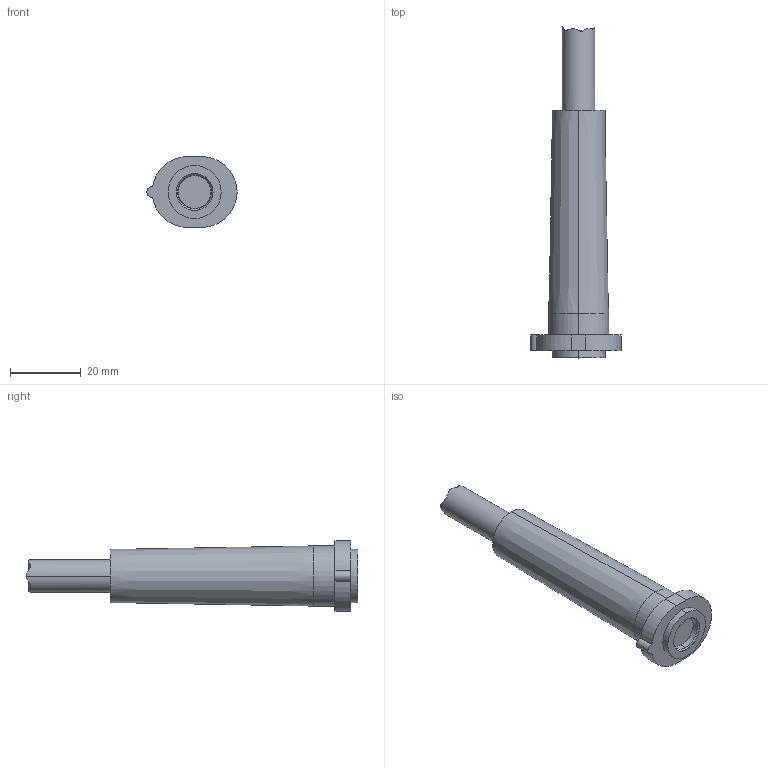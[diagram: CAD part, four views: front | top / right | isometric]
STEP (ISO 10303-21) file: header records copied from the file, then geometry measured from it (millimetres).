
FILE_DESCRIPTION((''),'2;1');
FILE_NAME('6159174200_ASM','2009-02-26T',('sdanet'),(''),'PRO/ENGINEER BY PARAMETRIC TECHNOLOGY CORPORATION, 2008250','PRO/ENGINEER BY PARAMETRIC TECHNOLOGY CORPORATION, 2008250','');
FILE_SCHEMA(('AUTOMOTIVE_DESIGN_CC2 { 1 2 10303 214 -1 1 5 2 }'));
Length unit declared in the file: millimetre
Products named in the file (3): 6155953210; 6159174201; 6159174200_ASM
Assembly tree (2 placements, depth 2):
  6159174200_ASM
    6155953210
    6159174201
Bounding box: 25.49 x 93.77 x 20 mm (x, y, z)
Volume: 16254 mm3; surface area: 9066.3 mm2
Topology: 2 solids, 2 shells, 28 faces, 58 edges, 36 vertices
Faces by surface type: cylinder 14, plane 7, cone 6, extrusion 1
Entity records: 1133 total; most frequent: CARTESIAN_POINT 227, DIRECTION 151, ORIENTED_EDGE 116, AXIS2_PLACEMENT_3D 62, PRESENTATION_STYLE_ASSIGNMENT 60, STYLED_ITEM 60, CURVE_STYLE 58, EDGE_CURVE 58
